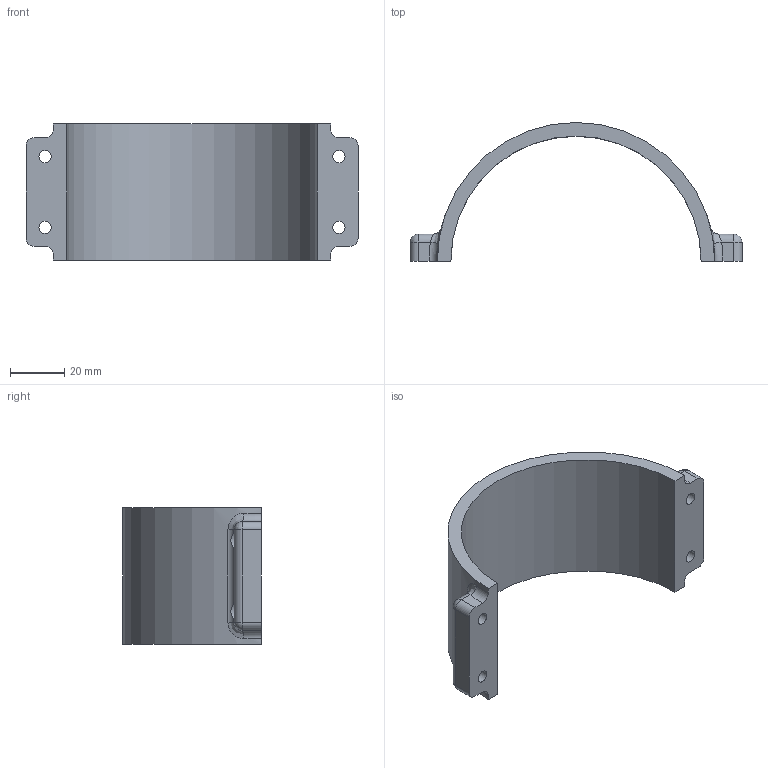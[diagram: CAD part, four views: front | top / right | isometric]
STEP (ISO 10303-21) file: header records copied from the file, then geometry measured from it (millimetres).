
FILE_DESCRIPTION(/* description */ (''),/* implementation_level */ '2;1');
FILE_NAME(/* name */ '',/* time_stamp */ '2024-08-09T13:01:30+09:00',/* author */ ('jhkim'),/* organization */ (''),/* preprocessor_version */ 'ST-DEVELOPER v20',/* originating_system */ 'Autodesk Inventor 2025',/* authorisation */ '');
FILE_SCHEMA (('AUTOMOTIVE_DESIGN { 1 0 10303 214 3 1 1 }'));
Length unit declared in the file: millimetre
Products named in the file (1): 윗커버
Bounding box: 122 x 51 x 50 mm (x, y, z)
Volume: 44965.2 mm3; surface area: 19685.5 mm2
Topology: 1 solids, 1 shells, 58 faces, 138 edges, 82 vertices
Faces by surface type: plane 24, cylinder 22, torus 4, bspline 4, sphere 4
Full cylindrical faces by diameter (mm): 4.5 x4, 8 x4
Entity records: 1911 total; most frequent: CARTESIAN_POINT 505, DIRECTION 298, ORIENTED_EDGE 276, EDGE_CURVE 138, AXIS2_PLACEMENT_3D 119, VERTEX_POINT 82, EDGE_LOOP 66, CIRCLE 64
